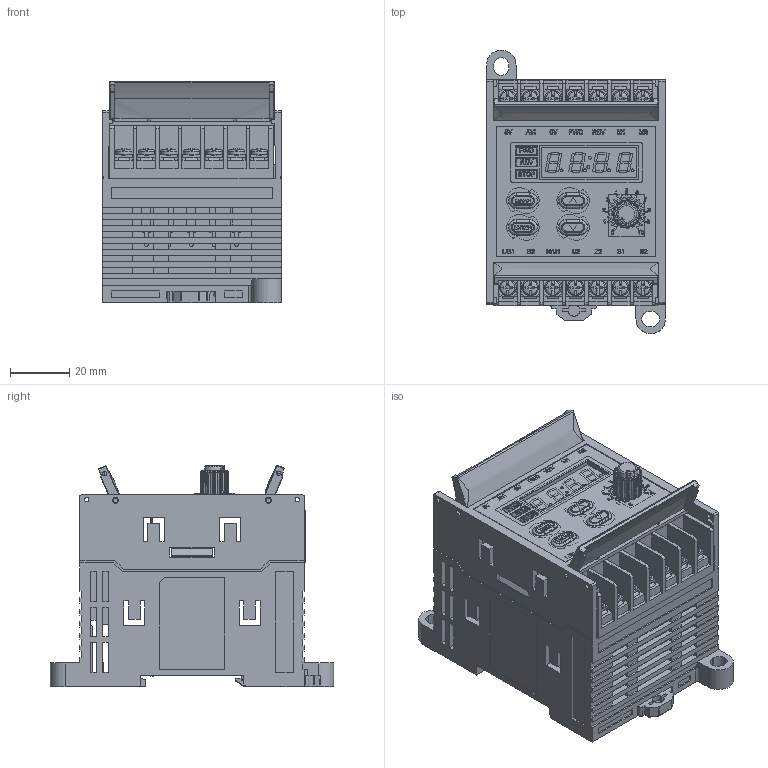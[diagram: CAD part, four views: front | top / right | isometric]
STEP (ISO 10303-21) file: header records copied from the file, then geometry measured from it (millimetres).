
FILE_DESCRIPTION (( 'STEP AP214' ), '1' );
FILE_NAME ('ZDRV.A24-200S2-DB.STEP', '2023-02-03T02:33:08', ( 'Windows User' ), ( 'P R C' ), 'SwSTEP 2.0', 'SolidWorks 2019', '' );
FILE_SCHEMA (( 'AUTOMOTIVE_DESIGN' ));
Length unit declared in the file: millimetre
Products named in the file (1): ZDRV.A24-200S2-DB
Bounding box: 60.5 x 95.8 x 75 mm (x, y, z)
Volume: 67112.9 mm3; surface area: 79692.6 mm2
Topology: 13 solids, 41 shells, 5983 faces, 16465 edges, 10573 vertices
Faces by surface type: plane 3674, cylinder 857, bspline 717, torus 481, cone 185, sphere 69
Entity records: 220905 total; most frequent: CARTESIAN_POINT 73576, ORIENTED_EDGE 32830, DIRECTION 27301, EDGE_CURVE 16415, LINE 10789, VECTOR 10789, VERTEX_POINT 10569, AXIS2_PLACEMENT_3D 8256
